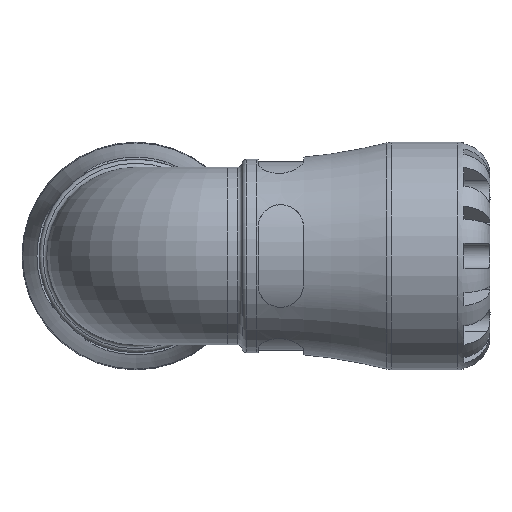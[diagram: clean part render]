
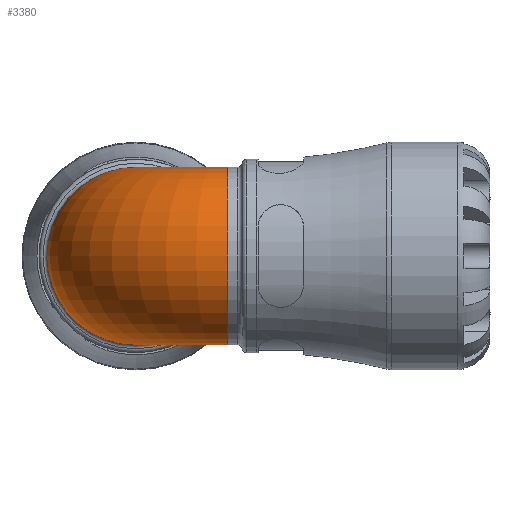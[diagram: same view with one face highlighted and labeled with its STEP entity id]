
A CAD part, front view. The second image highlights one B-rep face of the part: STEP entity #3380.
In plain terms, the highlighted toroidal (fillet/blend) face has major radius 28.285 mm and minor radius 27.3 mm.
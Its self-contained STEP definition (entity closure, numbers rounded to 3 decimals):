
#847=FACE_OUTER_BOUND('',#1043,.T.);
#1043=EDGE_LOOP('',(#2331,#2332,#2333,#2334,#2335,#2336));
#1253=CIRCLE('',#3602,27.3);
#1254=CIRCLE('',#3603,0.985);
#1255=CIRCLE('',#3604,27.3);
#1256=CIRCLE('',#3605,27.3);
#1257=CIRCLE('',#3606,27.3);
#1473=VERTEX_POINT('',#5032);
#1474=VERTEX_POINT('',#5033);
#1475=VERTEX_POINT('',#5035);
#1476=VERTEX_POINT('',#5037);
#1809=EDGE_CURVE('',#1473,#1474,#1253,.T.);
#1810=EDGE_CURVE('',#1473,#1475,#1254,.T.);
#1811=EDGE_CURVE('',#1476,#1475,#1255,.T.);
#1812=EDGE_CURVE('',#1475,#1476,#1256,.T.);
#1813=EDGE_CURVE('',#1474,#1473,#1257,.T.);
#2331=ORIENTED_EDGE('',*,*,#1809,.F.);
#2332=ORIENTED_EDGE('',*,*,#1810,.T.);
#2333=ORIENTED_EDGE('',*,*,#1811,.F.);
#2334=ORIENTED_EDGE('',*,*,#1812,.F.);
#2335=ORIENTED_EDGE('',*,*,#1810,.F.);
#2336=ORIENTED_EDGE('',*,*,#1813,.F.);
#3368=TOROIDAL_SURFACE('',#3601,28.285,27.3);
#3380=ADVANCED_FACE('',(#847),#3368,.T.);
#3601=AXIS2_PLACEMENT_3D('',#5031,#4026,#4027);
#3602=AXIS2_PLACEMENT_3D('',#5034,#4028,#4029);
#3603=AXIS2_PLACEMENT_3D('',#5036,#4030,#4031);
#3604=AXIS2_PLACEMENT_3D('',#5038,#4032,#4033);
#3605=AXIS2_PLACEMENT_3D('',#5039,#4034,#4035);
#3606=AXIS2_PLACEMENT_3D('',#5040,#4036,#4037);
#4026=DIRECTION('center_axis',(0.,0.,1.));
#4027=DIRECTION('ref_axis',(1.,0.,0.));
#4028=DIRECTION('center_axis',(1.,0.,0.));
#4029=DIRECTION('ref_axis',(0.,0.,-1.));
#4030=DIRECTION('center_axis',(0.,0.,-1.));
#4031=DIRECTION('ref_axis',(1.,0.,0.));
#4032=DIRECTION('center_axis',(0.,1.,0.));
#4033=DIRECTION('ref_axis',(0.,0.,-1.));
#4034=DIRECTION('center_axis',(0.,1.,0.));
#4035=DIRECTION('ref_axis',(0.,0.,-1.));
#4036=DIRECTION('center_axis',(1.,0.,0.));
#4037=DIRECTION('ref_axis',(0.,0.,-1.));
#5031=CARTESIAN_POINT('Origin',(28.285,28.285,0.));
#5032=CARTESIAN_POINT('',(28.285,27.3,0.));
#5033=CARTESIAN_POINT('',(28.285,-27.3,0.));
#5034=CARTESIAN_POINT('Origin',(28.285,0.,0.));
#5035=CARTESIAN_POINT('',(27.3,28.285,0.));
#5036=CARTESIAN_POINT('Origin',(28.285,28.285,0.));
#5037=CARTESIAN_POINT('',(0.,28.285,-27.3));
#5038=CARTESIAN_POINT('Origin',(0.,28.285,0.));
#5039=CARTESIAN_POINT('Origin',(0.,28.285,0.));
#5040=CARTESIAN_POINT('Origin',(28.285,0.,0.));
